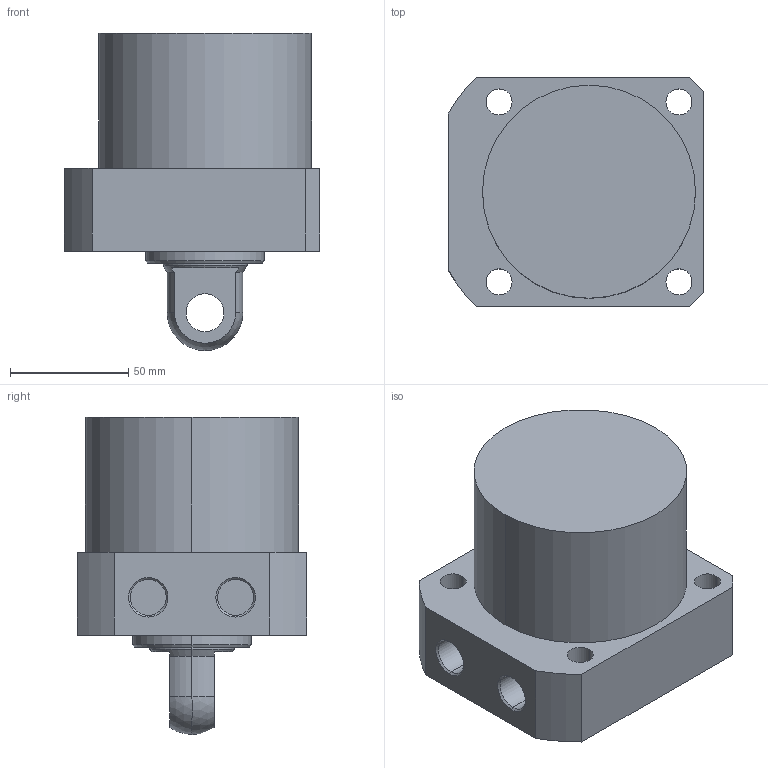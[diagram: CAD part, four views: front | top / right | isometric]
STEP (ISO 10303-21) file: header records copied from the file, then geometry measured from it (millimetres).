
FILE_DESCRIPTION (( 'STEP AP203' ), '1' );
FILE_NAME ('CLLR-090CP-035.STEP', '2019-12-19T03:22:31', ( '' ), ( '' ), 'SwSTEP 2.0', 'SolidWorks 2015', '' );
FILE_SCHEMA (( 'CONFIG_CONTROL_DESIGN' ));
Length unit declared in the file: millimetre
Products named in the file (1): CLLR-090CP-035
Bounding box: 108 x 97 x 134 mm (x, y, z)
Volume: 725090.3 mm3; surface area: 60815.9 mm2
Topology: 1 solids, 1 shells, 57 faces, 135 edges, 87 vertices
Faces by surface type: cylinder 29, plane 18, cone 8, sphere 2
Entity records: 1770 total; most frequent: DIRECTION 319, CARTESIAN_POINT 292, ORIENTED_EDGE 270, EDGE_CURVE 135, AXIS2_PLACEMENT_3D 130, VERTEX_POINT 87, EDGE_LOOP 74, CIRCLE 72
